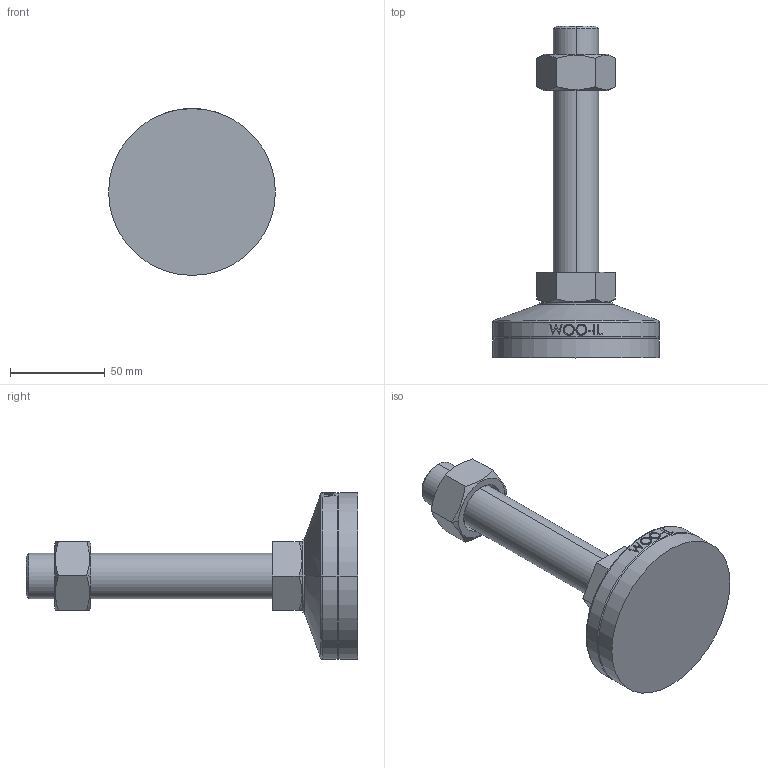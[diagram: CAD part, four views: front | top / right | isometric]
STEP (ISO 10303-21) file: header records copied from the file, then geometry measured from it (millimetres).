
FILE_DESCRIPTION (( 'STEP AP214' ), '1' );
FILE_NAME ('MFTR88-M24-130.step', '2021-02-08T08:39:16', ( '' ), ( '' ), 'SwSTEP 2.0', 'SolidWorks 2019', '' );
FILE_SCHEMA (( 'AUTOMOTIVE_DESIGN' ));
Length unit declared in the file: millimetre
Products named in the file (2): MFTR88-M24-130
Bounding box: 88 x 175 x 88 mm (x, y, z)
Volume: 237240 mm3; surface area: 48705.4 mm2
Topology: 4 solids, 4 shells, 103 faces, 235 edges, 150 vertices
Faces by surface type: plane 49, cylinder 18, bspline 16, cone 14, torus 6
Entity records: 4433 total; most frequent: CARTESIAN_POINT 2160, ORIENTED_EDGE 470, DIRECTION 417, EDGE_CURVE 235, AXIS2_PLACEMENT_3D 159, VERTEX_POINT 150, EDGE_LOOP 115, FACE_OUTER_BOUND 103
